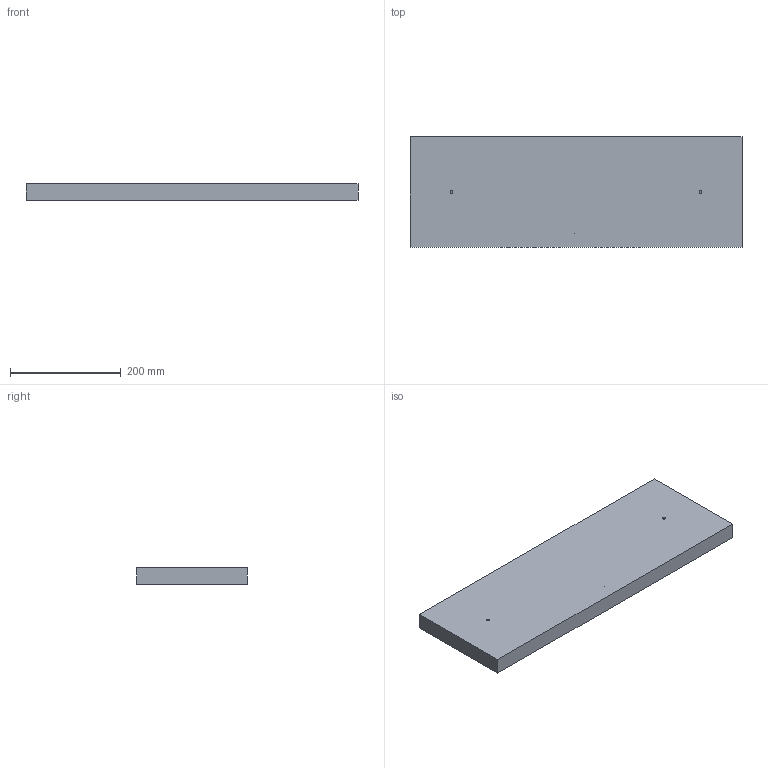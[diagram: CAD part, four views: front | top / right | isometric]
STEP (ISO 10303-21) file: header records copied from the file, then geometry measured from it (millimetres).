
FILE_DESCRIPTION(/* description */ (''),/* implementation_level */ '2;1');
FILE_NAME(/* name */ '00_Plate.stp',/* time_stamp */ '2022-12-02T12:48:45+01:00',/* author */ (''),/* organization */ (''),/* preprocessor_version */ 'ST-DEVELOPER v16.7',/* originating_system */ 'SIEMENS PLM Software NX 1930',/* authorisation */ '');
FILE_SCHEMA (('AUTOMOTIVE_DESIGN { 1 0 10303 214 3 1 1 1 }'));
Length unit declared in the file: millimetre
Products named in the file (1): hilkC0E0FDA296kj
Bounding box: 600 x 200 x 30 mm (x, y, z)
Volume: 3599802.7 mm3; surface area: 288164.9 mm2
Topology: 1 solids, 1 shells, 12 faces, 21 edges, 14 vertices
Faces by surface type: plane 9, cylinder 3
Full cylindrical faces by diameter (mm): 0.5 x1, 5 x2
Entity records: 327 total; most frequent: DIRECTION 54, CARTESIAN_POINT 47, ORIENTED_EDGE 36, AXIS2_PLACEMENT_3D 21, EDGE_LOOP 18, EDGE_CURVE 18, VERTEX_POINT 14, ADVANCED_FACE 12
